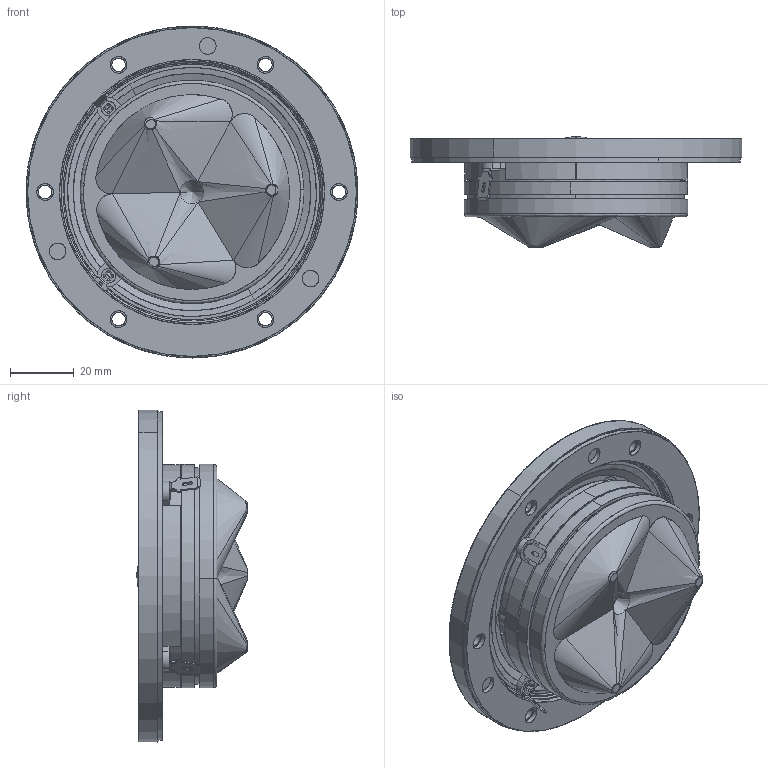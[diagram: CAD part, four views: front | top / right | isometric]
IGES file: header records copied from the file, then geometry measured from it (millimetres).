
Start section: SolidWorks IGES file using analytic representation for surfaces
Global section: file name: W:\TT\D29\D2904-710000\D2904-710002.IGS; native system: SolidWorks 2019; preprocessor: SolidWorks 2019; author: mhn; date: 201124.105926; units: millimetre
Bounding box: 104 x 34.65 x 104 mm (x, y, z)
Surface area: 35100.5 mm2 (no closed solid volume)
Topology: 0 solids, 0 shells, 520 faces, 10847 edges, 10645 vertices
Faces by surface type: bspline 273, revolution 247
